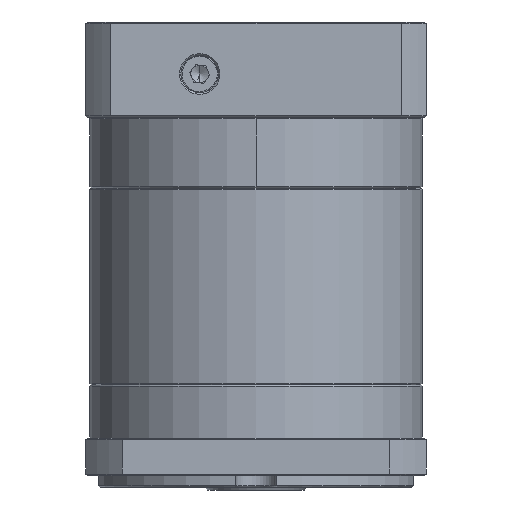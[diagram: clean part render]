
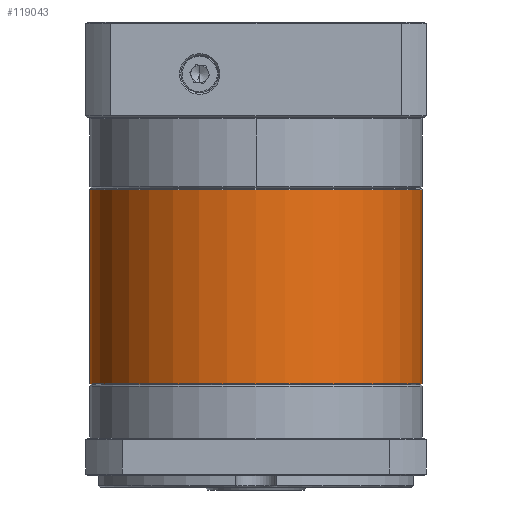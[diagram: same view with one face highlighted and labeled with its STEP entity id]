
A CAD part, front view. The second image highlights one B-rep face of the part: STEP entity #119043.
In plain terms, the highlighted cylindrical face has radius 57.5 mm (diameter 115 mm), a partial arc.
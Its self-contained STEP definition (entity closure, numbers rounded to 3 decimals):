
#702 = VECTOR ( 'NONE', #43479, 1000. ) ;
#1892 = EDGE_CURVE ( 'NONE', #23428, #112275, #22229, .T. ) ;
#5029 = AXIS2_PLACEMENT_3D ( 'NONE', #22611, #102007, #61560 ) ;
#7321 = AXIS2_PLACEMENT_3D ( 'NONE', #54680, #123413, #26063 ) ;
#8183 = EDGE_LOOP ( 'NONE', ( #47480, #113613, #114544, #27567, #112390 ) ) ;
#10014 = CARTESIAN_POINT ( 'NONE',  ( 48.659, 66.552, -129.808 ) ) ;
#17194 = FACE_OUTER_BOUND ( 'NONE', #8183, .T. ) ;
#19435 = DIRECTION ( 'NONE',  ( 0., 0., 1. ) ) ;
#21504 = CARTESIAN_POINT ( 'NONE',  ( 106.159, 66.552, -62.596 ) ) ;
#22229 = CIRCLE ( 'NONE', #91563, 57.5 ) ;
#22611 = CARTESIAN_POINT ( 'NONE',  ( 48.659, 66.552, -62.596 ) ) ;
#23428 = VERTEX_POINT ( 'NONE', #103747 ) ;
#26034 = VERTEX_POINT ( 'NONE', #65993 ) ;
#26063 = DIRECTION ( 'NONE',  ( -1., 0., 0. ) ) ;
#27567 = ORIENTED_EDGE ( 'NONE', *, *, #85879, .T. ) ;
#30115 = DIRECTION ( 'NONE',  ( -1., 0., 0. ) ) ;
#36132 = DIRECTION ( 'NONE',  ( -1., 0., 0. ) ) ;
#43479 = DIRECTION ( 'NONE',  ( 0., 0., -1. ) ) ;
#47480 = ORIENTED_EDGE ( 'NONE', *, *, #82315, .F. ) ;
#54680 = CARTESIAN_POINT ( 'NONE',  ( 48.659, 66.552, -62.096 ) ) ;
#55067 = DIRECTION ( 'NONE',  ( 0., 0., -1. ) ) ;
#55390 = CARTESIAN_POINT ( 'NONE',  ( 48.659, 66.552, -62.596 ) ) ;
#56809 = CARTESIAN_POINT ( 'NONE',  ( -8.841, 66.552, -62.596 ) ) ;
#61560 = DIRECTION ( 'NONE',  ( -1., 0., 0. ) ) ;
#65993 = CARTESIAN_POINT ( 'NONE',  ( 106.159, 66.552, -129.808 ) ) ;
#73758 = AXIS2_PLACEMENT_3D ( 'NONE', #10014, #19435, #30115 ) ;
#73952 = DIRECTION ( 'NONE',  ( 0., 0., -1. ) ) ;
#81733 = CIRCLE ( 'NONE', #73758, 57.5 ) ;
#82315 = EDGE_CURVE ( 'NONE', #99740, #26034, #91283, .T. ) ;
#82499 = CARTESIAN_POINT ( 'NONE',  ( 106.159, 66.552, -62.096 ) ) ;
#83006 = CARTESIAN_POINT ( 'NONE',  ( -8.841, 66.552, -129.808 ) ) ;
#85822 = VERTEX_POINT ( 'NONE', #83006 ) ;
#85879 = EDGE_CURVE ( 'NONE', #112275, #85822, #121144, .T. ) ;
#88529 = EDGE_CURVE ( 'NONE', #99740, #23428, #112467, .T. ) ;
#91283 = LINE ( 'NONE', #82499, #702 ) ;
#91563 = AXIS2_PLACEMENT_3D ( 'NONE', #55390, #73952, #36132 ) ;
#94012 = CYLINDRICAL_SURFACE ( 'NONE', #7321, 57.5 ) ;
#99740 = VERTEX_POINT ( 'NONE', #21504 ) ;
#102007 = DIRECTION ( 'NONE',  ( 0., 0., -1. ) ) ;
#103747 = CARTESIAN_POINT ( 'NONE',  ( 48.659, 9.052, -62.596 ) ) ;
#112275 = VERTEX_POINT ( 'NONE', #56809 ) ;
#112390 = ORIENTED_EDGE ( 'NONE', *, *, #126093, .T. ) ;
#112467 = CIRCLE ( 'NONE', #5029, 57.5 ) ;
#113137 = CARTESIAN_POINT ( 'NONE',  ( -8.841, 66.552, -62.096 ) ) ;
#113613 = ORIENTED_EDGE ( 'NONE', *, *, #88529, .T. ) ;
#114544 = ORIENTED_EDGE ( 'NONE', *, *, #1892, .T. ) ;
#119043 = ADVANCED_FACE ( 'NONE', ( #17194 ), #94012, .T. ) ;
#121144 = LINE ( 'NONE', #113137, #122721 ) ;
#122721 = VECTOR ( 'NONE', #55067, 1000. ) ;
#123413 = DIRECTION ( 'NONE',  ( 0., 0., -1. ) ) ;
#126093 = EDGE_CURVE ( 'NONE', #85822, #26034, #81733, .T. ) ;
